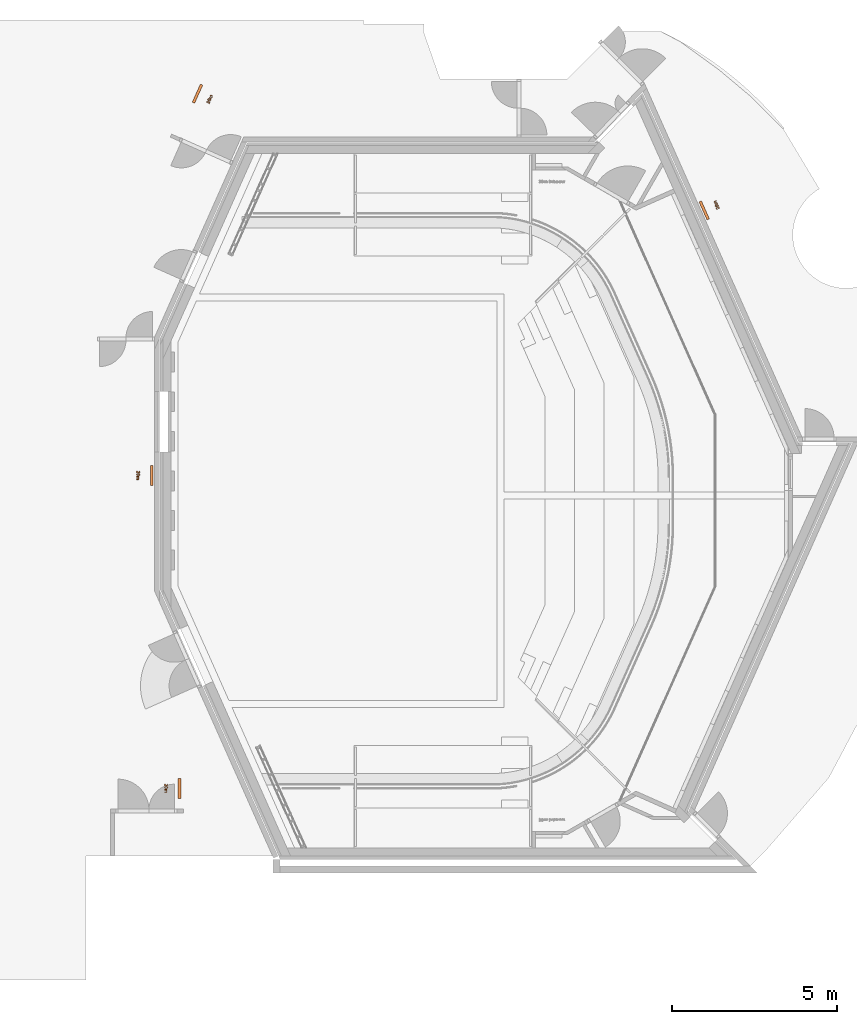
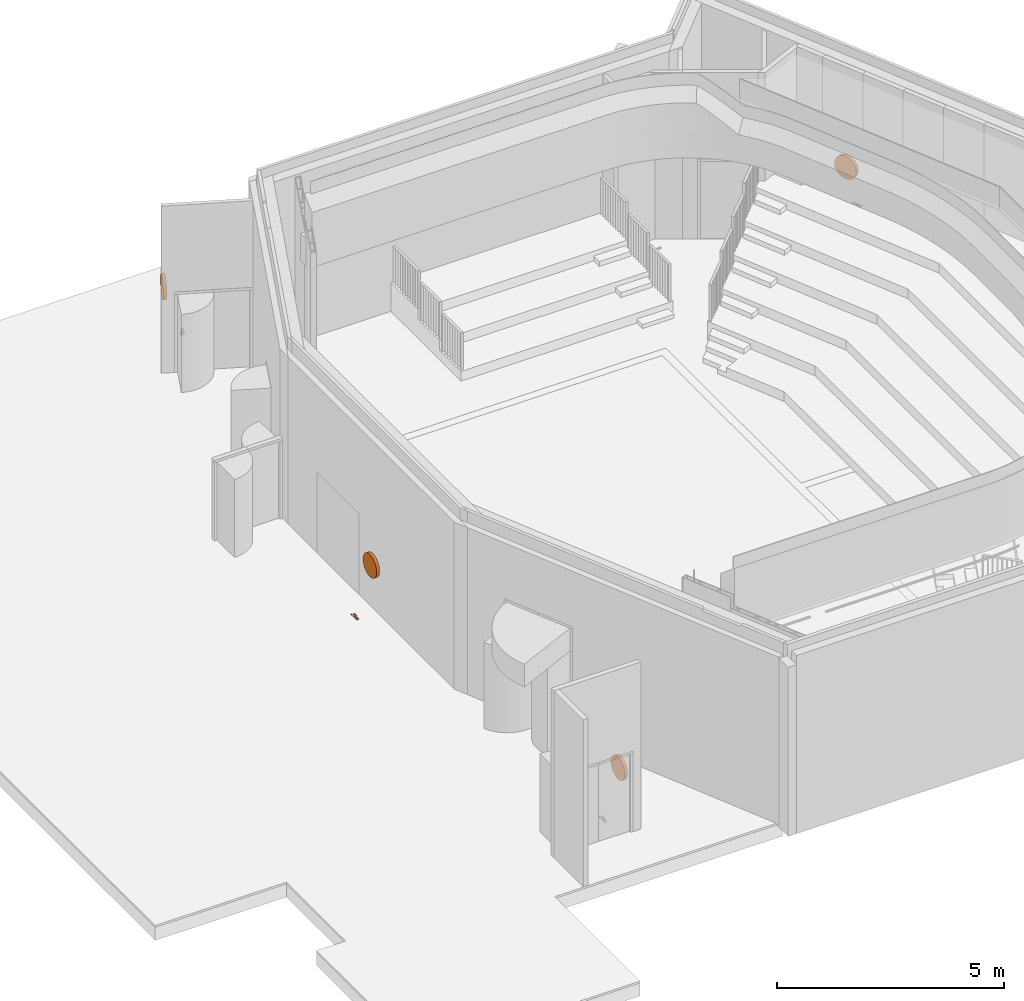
# One storey, part 18 of 19: 4 proxies.
"""IFC2X3 building model written with IfcOpenShell, lengths in millimetres."""

from ifc_helpers import new_model, entity, si_unit, converted_unit, derived_unit, direction, frame, origin, place, context, subcontext, project, spatial, face_set, surface_model, source, transform, mapped, material, type_object, type_shapes, element, save


model = new_model("IFC2X3")

# Units and contexts
model_context = context("Model", 3, precision=0.01, world=origin(), true_north=direction((6.123031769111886e-17, 1.0)))
body_context = subcontext(model_context, "Body", "Model", "MODEL_VIEW")
ifc_project = project(units=[si_unit("LENGTHUNIT", "METRE", prefix="MILLI"), si_unit("AREAUNIT", "SQUARE_METRE"), si_unit("VOLUMEUNIT", "CUBIC_METRE"), converted_unit("PLANEANGLEUNIT", "DEGREE", entity("IfcRatioMeasure", 0.017453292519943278), si_unit("PLANEANGLEUNIT", "RADIAN"), dimensions=[0, 0, 0, 0, 0, 0, 0]), si_unit("MASSUNIT", "GRAM", prefix="KILO"), derived_unit("MASSDENSITYUNIT", [(si_unit("MASSUNIT", "GRAM", prefix="KILO"), 1), (si_unit("LENGTHUNIT", "METRE"), -3)]), derived_unit("MOMENTOFINERTIAUNIT", [(si_unit("LENGTHUNIT", "METRE"), 4)]), si_unit("TIMEUNIT", "SECOND"), si_unit("FREQUENCYUNIT", "HERTZ"), si_unit("THERMODYNAMICTEMPERATUREUNIT", "DEGREE_CELSIUS"), derived_unit("THERMALTRANSMITTANCEUNIT", [(si_unit("MASSUNIT", "GRAM", prefix="KILO"), 1), (si_unit("THERMODYNAMICTEMPERATUREUNIT", "KELVIN"), -1), (si_unit("TIMEUNIT", "SECOND"), -3)]), derived_unit("VOLUMETRICFLOWRATEUNIT", [(si_unit("LENGTHUNIT", "METRE"), 3), (si_unit("TIMEUNIT", "SECOND"), -1)]), derived_unit("MASSFLOWRATEUNIT", [(si_unit("MASSUNIT", "GRAM", prefix="KILO"), 1), (si_unit("TIMEUNIT", "SECOND"), -1)]), derived_unit("ROTATIONALFREQUENCYUNIT", [(si_unit("TIMEUNIT", "SECOND"), -1)]), si_unit("ELECTRICCURRENTUNIT", "AMPERE"), si_unit("ELECTRICVOLTAGEUNIT", "VOLT"), si_unit("POWERUNIT", "WATT"), si_unit("FORCEUNIT", "NEWTON", prefix="KILO"), si_unit("ILLUMINANCEUNIT", "LUX"), si_unit("LUMINOUSFLUXUNIT", "LUMEN"), si_unit("LUMINOUSINTENSITYUNIT", "CANDELA"), derived_unit("USERDEFINED", [(si_unit("MASSUNIT", "GRAM", prefix="KILO"), -1), (si_unit("LENGTHUNIT", "METRE"), -2), (si_unit("TIMEUNIT", "SECOND"), 3), (si_unit("LUMINOUSFLUXUNIT", "LUMEN"), 1)]), derived_unit("SOUNDPOWERUNIT", [(si_unit("MASSUNIT", "GRAM", prefix="KILO"), 1), (si_unit("LENGTHUNIT", "METRE"), 2), (si_unit("TIMEUNIT", "SECOND"), -3)]), derived_unit("SOUNDPRESSUREUNIT", [(si_unit("MASSUNIT", "GRAM", prefix="KILO"), 1), (si_unit("LENGTHUNIT", "METRE"), -1), (si_unit("TIMEUNIT", "SECOND"), -2)]), derived_unit("LINEARVELOCITYUNIT", [(si_unit("LENGTHUNIT", "METRE"), 1), (si_unit("TIMEUNIT", "SECOND"), -1)]), si_unit("PRESSUREUNIT", "PASCAL"), derived_unit("USERDEFINED", [(si_unit("LENGTHUNIT", "METRE"), -2), (si_unit("MASSUNIT", "GRAM", prefix="KILO"), 1), (si_unit("TIMEUNIT", "SECOND"), -2)]), derived_unit("LINEARFORCEUNIT", [(si_unit("MASSUNIT", "GRAM", prefix="KILO"), 1), (si_unit("LENGTHUNIT", "METRE"), 1), (si_unit("TIMEUNIT", "SECOND"), -2), (si_unit("LENGTHUNIT", "METRE"), -1)]), derived_unit("PLANARFORCEUNIT", [(si_unit("MASSUNIT", "GRAM", prefix="KILO"), 1), (si_unit("LENGTHUNIT", "METRE"), 1), (si_unit("TIMEUNIT", "SECOND"), -2), (si_unit("LENGTHUNIT", "METRE"), -2)])], contexts=[model_context])

# Site, building, storey
site_placement = place(None, frame((-10000.0, -10000.0, 0.0)))
site = spatial("IfcSite", under=ifc_project, at=site_placement, Name="Default", CompositionType="ELEMENT")
building_placement = place(site_placement, origin())
building = spatial("IfcBuilding", under=site, at=building_placement, CompositionType="ELEMENT")
storey_placement = place(building_placement, frame((0.0, 0.0, 4200.0)))
storey = spatial("IfcBuildingStorey", under=building, at=storey_placement, Name="01 1e verdieping", CompositionType="ELEMENT", Elevation=4200.000000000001)

# Proxies
ifc_material = material(Name="<Unnamed>")
building_element_proxy_type = type_object("IfcBuildingElementProxyType", Name="NLRS_53_GM_brandslanghaspel opbouw_ags:20 meter", PredefinedType="NOTDEFINED", material=ifc_material)
shared_shape = source(origin(), body_context, "Body", "SurfaceModel", [
    surface_model("IfcFaceBasedSurfaceModel", [(229.7810715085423, 21.05297174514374, 0.0), (193.57097226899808, 21.05297174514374, 0.0), (197.21475584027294, 26.366822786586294, 0.0), (208.31058289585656, 37.42469376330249, 0.0), (220.3932680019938, 50.17793626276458, 0.0), (227.5290108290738, 62.956482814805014, 0.0), (229.7810715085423, 75.81094152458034, 0.0), (227.7251172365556, 86.70749916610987, 0.0), (221.55725442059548, 95.661970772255, 0.0), (211.78989012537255, 101.64954221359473, 0.0), (198.9354314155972, 103.64539936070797, 0.0), (186.897028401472, 101.86462666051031, 0.0), (177.04742593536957, 96.52230855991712, 0.0), (170.06350742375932, 87.08705995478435, 0.0), (166.62215627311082, 73.02749574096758, 0.0), (186.0556686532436, 71.25621206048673, 0.0), (189.8006684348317, 82.45325532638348, 0.0), (198.50526252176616, 85.8313463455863, 0.0), (207.19720458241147, 82.40264722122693, 0.0), (210.34755912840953, 72.57202279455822, 0.0), (206.60255934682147, 60.88155050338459, 0.0), (191.57195211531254, 44.58574064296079, 0.0), (171.20218978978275, 20.68606298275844, 0.0), (165.00269690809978, 1.6194593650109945, 0.0), (229.7810715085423, 1.6194593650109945, 0.0), (275.1259337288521, 103.64539936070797, 0.0), (262.2271929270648, 101.05173397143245, 0.0), (252.5294147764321, 93.2707378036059, 0.0), (245.18491351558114, 76.65230127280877, 0.0), (242.73674642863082, 51.99982804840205, 0.0), (244.96666606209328, 27.233486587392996, 0.0), (251.65642496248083, 11.386823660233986, 0.0), (261.98364142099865, 2.8467059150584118, 0.0), (275.1259337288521, 0.0, 0.0), (288.0246745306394, 2.5936653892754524, 0.0), (297.72245268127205, 10.374661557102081, 0.0), (305.066953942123, 27.031054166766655, 0.0), (307.5151210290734, 51.79739562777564, 0.0), (305.0796059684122, 76.5637370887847, 0.0), (297.7730607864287, 93.1189134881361, 0.0), (288.0373265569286, 101.013777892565, 0.0), (275.1259337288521, 85.8313463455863, 0.0), (281.5658151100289, 83.69315390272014, 0.0), (286.23441281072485, 75.17834021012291, 0.0), (288.0816086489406, 51.79739562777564, 0.0), (286.00667633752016, 27.632025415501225, 0.0), (281.60377118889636, 19.952245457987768, 0.0), (275.1259337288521, 17.814053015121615, 0.0), (268.6860523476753, 19.926941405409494, 0.0), (264.01745464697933, 28.403799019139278, 0.0), (262.1702588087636, 51.79739562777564, 0.0), (264.245191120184, 76.01337394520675, 0.0), (268.6480962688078, 83.69315390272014, 0.0), (322.0902553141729, 76.11459015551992, 0.0), (322.0902553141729, 1.6194593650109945, 0.0), (341.5237676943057, 1.6194593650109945, 0.0), (341.5237676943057, 38.0825991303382, 0.0), (343.04201084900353, 53.556027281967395, 0.0), (348.0522132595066, 60.69177010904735, 0.0), (355.92177361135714, 63.15891523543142, 0.0), (361.67844557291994, 61.602716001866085, 0.0), (364.80349606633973, 56.870858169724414, 0.0), (365.81565816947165, 42.73854480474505, 0.0), (365.81565816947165, 1.6194593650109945, 0.0), (385.2491705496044, 1.6194593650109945, 0.0), (385.2491705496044, 37.65243023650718, 0.0), (386.80536978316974, 53.163814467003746, 0.0), (391.8914843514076, 60.61585795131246, 0.0), (399.4194399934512, 63.15891523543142, 0.0), (407.56734492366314, 58.907834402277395, 0.0), (409.5410610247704, 44.509828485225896, 0.0), (409.5410610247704, 1.6194593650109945, 0.0), (428.97457340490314, 1.6194593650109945, 0.0), (428.97457340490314, 49.216382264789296, 0.0), (427.0008573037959, 64.6265502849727, 0.0), (418.70112805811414, 74.40656660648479, 0.0), (405.1634599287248, 77.73404952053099, 0.0), (393.30851129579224, 74.88734360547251, 0.0), (382.97180581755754, 66.27131370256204, 0.0), (374.88716101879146, 74.88734360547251, 0.0), (363.25994885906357, 77.73404952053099, 0.0), (351.525194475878, 74.83673550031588, 0.0), (341.5237676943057, 66.1447934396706, 0.0), (341.5237676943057, 76.11459015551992, 0.0), (1.5952722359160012, 414.42866249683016, 1250.0), (7.359688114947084, 414.42866249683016, 1308.5270966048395), (24.431412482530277, 414.42866249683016, 1364.8050297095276), (52.15438854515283, 414.42866249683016, 1416.6710699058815), (89.46323787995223, 414.42866249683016, 1462.1320343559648), (134.92420233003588, 414.42866249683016, 1499.440883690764), (186.79024252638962, 414.42866249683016, 1527.1638597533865), (243.0681756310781, 414.42866249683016, 1544.2355841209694), (301.5952722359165, 414.42866249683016, 1550.0), (360.1223688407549, 414.42866249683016, 1544.2355841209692), (416.4003019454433, 414.42866249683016, 1527.1638597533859), (468.26634214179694, 414.42866249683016, 1499.4408836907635), (513.7273065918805, 414.42866249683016, 1462.1320343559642), (551.0361559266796, 414.42866249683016, 1416.6710699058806), (578.7591319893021, 414.42866249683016, 1364.805029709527), (595.8308563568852, 414.42866249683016, 1308.5270966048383), (601.5952722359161, 414.42866249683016, 1250.0), (595.8308563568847, 414.42866249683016, 1191.4729033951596), (578.7591319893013, 414.42866249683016, 1135.1949702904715), (551.0361559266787, 414.42866249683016, 1083.328930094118), (513.7273065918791, 414.42866249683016, 1037.8679656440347), (468.26634214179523, 414.42866249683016, 1000.5591163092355), (416.4003019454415, 414.42866249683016, 972.8361402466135), (360.1223688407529, 414.42866249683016, 955.7644158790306), (301.59527223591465, 414.42866249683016, 950.0), (243.06817563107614, 414.42866249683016, 955.7644158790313), (186.79024252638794, 414.42866249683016, 972.8361402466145), (134.92420233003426, 414.42866249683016, 1000.5591163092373), (89.46323787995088, 414.42866249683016, 1037.8679656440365), (52.15438854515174, 414.42866249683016, 1083.3289300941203), (24.43141248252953, 414.42866249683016, 1135.1949702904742), (7.359688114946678, 414.42866249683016, 1191.4729033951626), (1.5952722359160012, 494.42866249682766, 1250.0), (7.359688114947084, 494.42866249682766, 1308.5270966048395), (24.431412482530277, 494.42866249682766, 1364.8050297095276), (52.15438854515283, 494.42866249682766, 1416.6710699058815), (89.46323787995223, 494.42866249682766, 1462.1320343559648), (134.92420233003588, 494.42866249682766, 1499.440883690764), (186.79024252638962, 494.42866249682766, 1527.1638597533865), (243.0681756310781, 494.42866249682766, 1544.2355841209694), (301.5952722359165, 494.42866249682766, 1550.0), (360.1223688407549, 494.42866249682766, 1544.2355841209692), (416.4003019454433, 494.42866249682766, 1527.1638597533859), (468.26634214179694, 494.42866249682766, 1499.4408836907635), (513.7273065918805, 494.42866249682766, 1462.1320343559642), (551.0361559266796, 494.42866249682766, 1416.6710699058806), (578.7591319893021, 494.42866249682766, 1364.805029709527), (595.8308563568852, 494.42866249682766, 1308.5270966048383), (601.5952722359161, 494.42866249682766, 1250.0), (595.8308563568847, 494.42866249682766, 1191.4729033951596), (578.7591319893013, 494.42866249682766, 1135.1949702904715), (551.0361559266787, 494.42866249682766, 1083.328930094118), (513.7273065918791, 494.42866249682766, 1037.8679656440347), (468.26634214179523, 494.42866249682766, 1000.5591163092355), (416.4003019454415, 494.42866249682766, 972.8361402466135), (360.1223688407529, 494.42866249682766, 955.7644158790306), (301.59527223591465, 494.42866249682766, 950.0), (243.06817563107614, 494.42866249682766, 955.7644158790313), (186.79024252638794, 494.42866249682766, 972.8361402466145), (134.92420233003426, 494.42866249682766, 1000.5591163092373), (89.46323787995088, 494.42866249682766, 1037.8679656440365), (52.15438854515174, 494.42866249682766, 1083.3289300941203), (24.43141248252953, 494.42866249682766, 1135.1949702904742), (7.359688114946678, 494.42866249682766, 1191.4729033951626)], [face_set([[[0, 1, 2, 3, 4, 5, 6, 7, 8, 9, 10, 11, 12, 13, 14, 15, 16, 17, 18, 19, 20, 21, 22, 23, 24]], [[25, 26, 27, 28, 29, 30, 31, 32, 33, 34, 35, 36, 37, 38, 39, 40], [41, 42, 43, 44, 45, 46, 47, 48, 49, 50, 51, 52]], [[53, 54, 55, 56, 57, 58, 59, 60, 61, 62, 63, 64, 65, 66, 67, 68, 69, 70, 71, 72, 73, 74, 75, 76, 77, 78, 79, 80, 81, 82, 83]]]), face_set([[[84, 85, 86, 87, 88, 89, 90, 91, 92, 93, 94, 95, 96, 97, 98, 99, 100, 101, 102, 103, 104, 105, 106, 107, 108, 109, 110, 111, 112, 113, 114, 115]], [[116, 117, 118, 119, 120, 121, 122, 123, 124, 125, 126, 127, 128, 129, 130, 131, 132, 133, 134, 135, 136, 137, 138, 139, 140, 141, 142, 143, 144, 145, 146, 147]], [[116, 147, 115, 84]], [[147, 146, 114, 115]], [[146, 145, 113, 114]], [[144, 143, 111, 112]], [[143, 142, 110, 111]], [[145, 144, 112, 113]], [[142, 141, 109, 110]], [[140, 108, 109, 141]], [[106, 138, 137, 105]], [[107, 139, 138, 106]], [[105, 137, 136, 104]], [[102, 134, 133, 101]], [[103, 135, 134, 102]], [[104, 136, 135, 103]], [[101, 133, 132, 100]], [[107, 108, 140, 139]], [[132, 131, 99, 100]], [[131, 130, 98, 99]], [[130, 129, 97, 98]], [[128, 127, 95, 96]], [[127, 126, 94, 95]], [[129, 128, 96, 97]], [[126, 125, 93, 94]], [[124, 92, 93, 125]], [[90, 122, 121, 89]], [[91, 123, 122, 90]], [[89, 121, 120, 88]], [[86, 118, 117, 85]], [[87, 119, 118, 86]], [[88, 120, 119, 87]], [[85, 117, 116, 84]], [[91, 92, 124, 123]]])]),
])
type_shapes(building_element_proxy_type, [shared_shape])
for number, where, z_axis, x_axis, name in (
    (1, (24730.57133719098, 39701.59527223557, 0.0), (0.0, 0.0, 1.0), (0.0, -1.0, 0.0), "NLRS_53_GM_brandslanghaspel opbouw_ags:20 meter"),
    (2, (42462.887056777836, 47341.476653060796, 0.0), (0.0, 0.0, 1.0), (-0.40673664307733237, 0.9135454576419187, 0.0), "NLRS_53_GM_brandslanghaspel opbouw_ags:20 meter"),
    (3, (26867.202865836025, 50507.96872125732, 0.0), (0.0, 0.0, 1.0), (0.4074479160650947, 0.9132284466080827, 0.0), "NLRS_53_GM_brandslanghaspel opbouw_ags:20 meter"),
    (4, (25576.806284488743, 30223.76397919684, 0.0), (0.0, 0.0, 1.0), (0.0, -1.0, 0.0), "NLRS_53_GM_brandslanghaspel opbouw_ags:20 meter"),
):
    element("IfcBuildingElementProxy", number, at=place(storey_placement, frame(where, z_axis=z_axis, x_axis=x_axis)), inside=storey, type_object=building_element_proxy_type, material=ifc_material, Name=name, ObjectType="NLRS_53_GM_brandslanghaspel opbouw_ags:20 meter", context=body_context, shape_type="MappedRepresentation", body=[
        mapped(shared_shape, transform((0.0, 0.0, 0.0), scale=1.0)),
    ])

save(model, "model.ifc")
